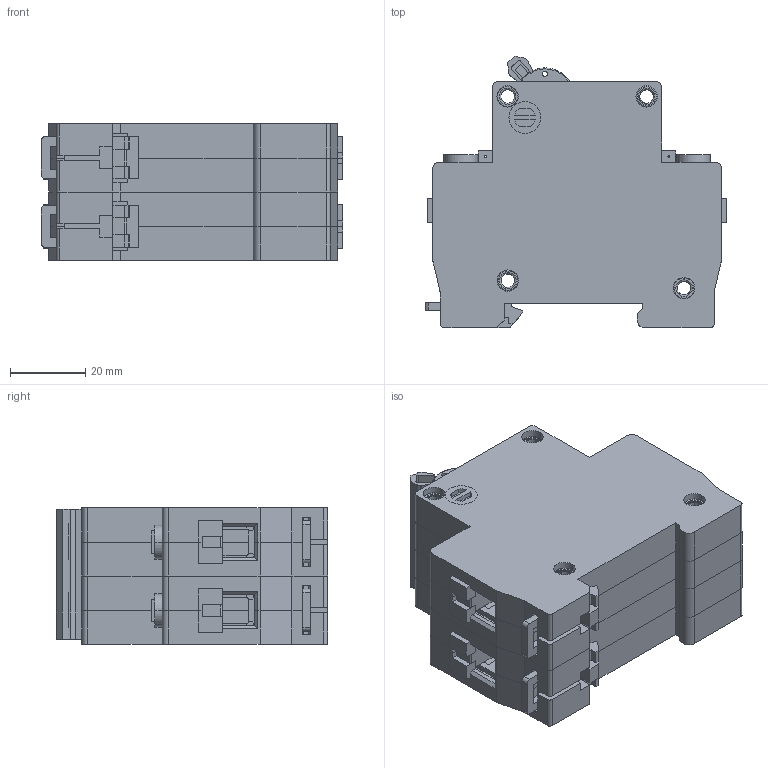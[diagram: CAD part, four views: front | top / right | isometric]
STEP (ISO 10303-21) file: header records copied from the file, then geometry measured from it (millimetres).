
FILE_DESCRIPTION (( 'STEP AP203' ), '1' );
FILE_NAME ('臍47-29-2(蟬32-2).STEP', '2014-03-14T06:21:01', ( 'admin' ), ( 'KEAZ' ), 'SwSTEP 2.0', 'SolidWorks 2007', '' );
FILE_SCHEMA (( 'CONFIG_CONTROL_DESIGN' ));
Length unit declared in the file: millimetre
Products named in the file (12): âñòàâ11_Ïî óìîë÷àíèþ; ч蜱齁罻; Ñêîáà_2Ï_-02 (áåç ñëåäà); çàùåëêà1ï_Ïî óìîë÷àíèþ; 臍47-29-2(蟬32-2); ÑáîðêàÂÀ47-29(2)_ðó÷êà_øàíãàí_áåç èíäèêàòîðà; Áîêîâèíà ïðàâàÿ2; Áîêîâèíà ëåâàÿ2; Âèíò_ààà; çàêëåïêà_äëÿ_ÂÀ47-29(2)_ñáîðêà; Ðó÷êà äëÿ ÂÀ47-29(2)_øàíãàí; 暑腩潢郷闷仁.745418.015
Assembly tree (19 placements, depth 3):
  臍47-29-2(蟬32-2)
    ÑáîðêàÂÀ47-29(2)_ðó÷êà_øàíãàí_áåç èíäèêàòîðà  x2
      çàêëåïêà_äëÿ_ÂÀ47-29(2)_ñáîðêà
      ч蜱齁罻
      Âèíò_ààà
      Áîêîâèíà ïðàâàÿ2
      Áîêîâèíà ëåâàÿ2
      âñòàâ11_Ïî óìîë÷àíèþ
      暑腩潢郷闷仁.745418.015
      çàùåëêà1ï_Ïî óìîë÷àíèþ
      Ðó÷êà äëÿ ÂÀ47-29(2)_øàíãàí
    Ñêîáà_2Ï_-02 (áåç ñëåäà)
Bounding box: 80.3 x 72.2 x 36.4 mm (x, y, z)
Volume: 130026.4 mm3; surface area: 66041.6 mm2
Topology: 33 solids, 33 shells, 1619 faces, 4237 edges, 2718 vertices
Faces by surface type: plane 1092, cylinder 411, torus 116
Entity records: 19231 total; most frequent: CARTESIAN_POINT 3187, DIRECTION 3047, ORIENTED_EDGE 3042, EDGE_CURVE 1521, VECTOR 1111, LINE 1111, VERTEX_POINT 988, AXIS2_PLACEMENT_3D 968
